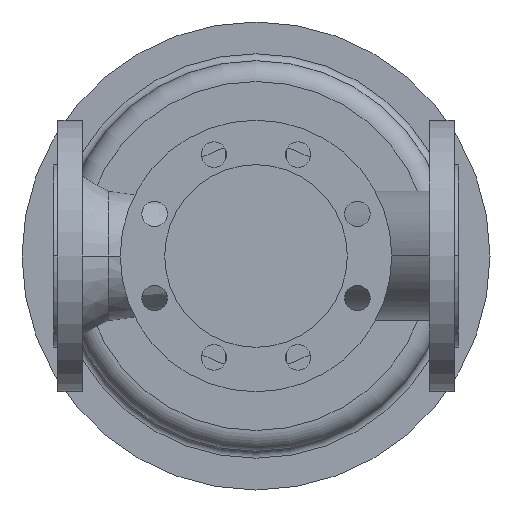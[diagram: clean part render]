
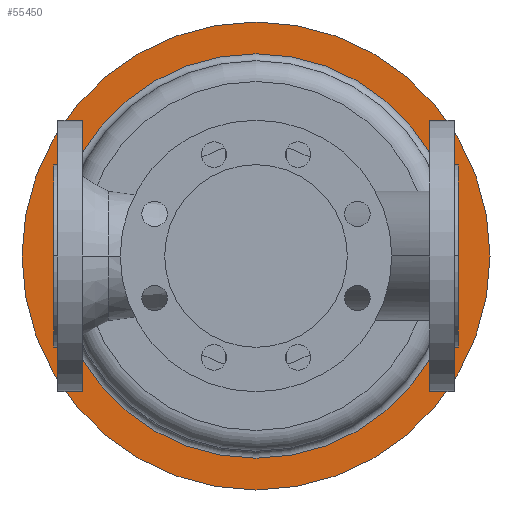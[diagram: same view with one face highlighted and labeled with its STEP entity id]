
A CAD part, front view. The second image highlights one B-rep face of the part: STEP entity #55450.
In plain terms, the highlighted planar face has unit normal (0, -1, 0).
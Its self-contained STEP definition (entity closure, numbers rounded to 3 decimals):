
#42880=CARTESIAN_POINT('',(-27.5,620.5,0.));
#42890=VERTEX_POINT('',#42880);
#42920=CARTESIAN_POINT('',(175.,620.5,0.));
#42930=DIRECTION('',(0.,1.,0.));
#42940=DIRECTION('',(1.,0.,0.));
#42950=AXIS2_PLACEMENT_3D('',#42920,#42930,#42940);
#42960=CIRCLE('',#42950,202.5);
#42970=CARTESIAN_POINT('',(377.5,620.5,0.));
#42980=VERTEX_POINT('',#42970);
#42990=EDGE_CURVE('',#42980,#42890,#42960,.T.);
#43310=CARTESIAN_POINT('',(0.,620.5,
0.));
#43320=VERTEX_POINT('',#43310);
#43350=CARTESIAN_POINT('',(175.,620.5,0.));
#43360=DIRECTION('',(0.,1.,0.));
#43370=DIRECTION('',(1.,0.,0.));
#43380=AXIS2_PLACEMENT_3D('',#43350,#43360,#43370);
#43390=CIRCLE('',#43380,175.);
#43400=CARTESIAN_POINT('',(175.,620.5,175.));
#43410=VERTEX_POINT('',#43400);
#43420=EDGE_CURVE('',#43320,#43410,#43390,.T.);
#43440=CARTESIAN_POINT('',(350.,620.5,0.));
#43450=VERTEX_POINT('',#43440);
#43460=EDGE_CURVE('',#43410,#43450,#43390,.T.);
#55290=CARTESIAN_POINT('',(363.75,620.5,0.));
#55300=DIRECTION('',(0.,-1.,0.));
#55310=DIRECTION('',(-1.,0.,0.));
#55320=AXIS2_PLACEMENT_3D('',#55290,#55300,#55310);
#55330=PLANE('',#55320);
#55340=ORIENTED_EDGE('',*,*,#42990,.F.);
#55350=EDGE_CURVE('',#42890,#42980,#42960,.T.);
#55360=ORIENTED_EDGE('',*,*,#55350,.F.);
#55370=EDGE_LOOP('',(#55360,#55340));
#55380=FACE_OUTER_BOUND('',#55370,.T.);
#55390=EDGE_CURVE('',#43450,#43320,#43390,.T.);
#55400=ORIENTED_EDGE('',*,*,#55390,.T.);
#55410=ORIENTED_EDGE('',*,*,#43460,.T.);
#55420=ORIENTED_EDGE('',*,*,#43420,.T.);
#55430=EDGE_LOOP('',(#55420,#55410,#55400));
#55440=FACE_BOUND('',#55430,.T.);
#55450=ADVANCED_FACE('',(#55380,#55440),#55330,.T.);
